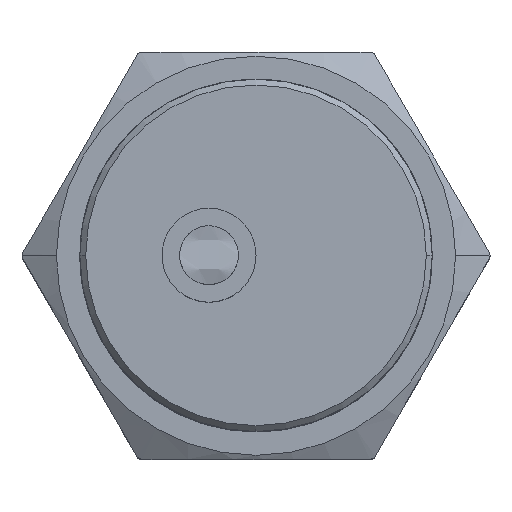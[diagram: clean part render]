
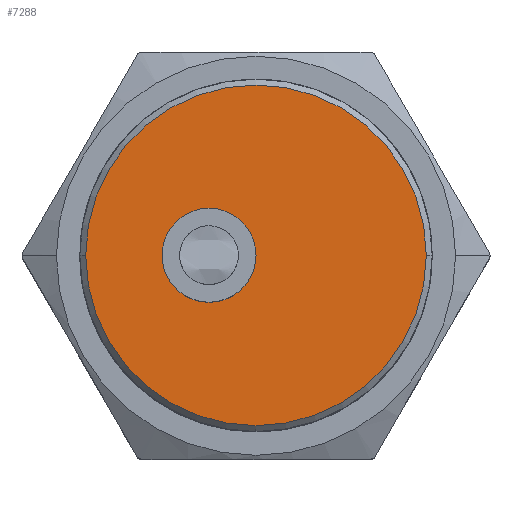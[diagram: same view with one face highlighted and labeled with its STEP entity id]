
A CAD part, top view. The second image highlights one B-rep face of the part: STEP entity #7288.
In plain terms, the highlighted planar face has unit normal (0, 0, 1).
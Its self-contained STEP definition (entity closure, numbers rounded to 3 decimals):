
#2360=CARTESIAN_POINT('',(-4.,0.,55.));
#2361=DIRECTION('',(0.,0.,1.));
#2362=DIRECTION('',(1.,0.,0.));
#2363=AXIS2_PLACEMENT_3D('',#2360,#2361,#2362);
#2368=CARTESIAN_POINT('',(-4.,0.,55.));
#2369=DIRECTION('',(0.,0.,1.));
#2370=DIRECTION('',(-1.,0.,0.));
#2371=AXIS2_PLACEMENT_3D('',#2368,#2369,#2370);
#2376=CARTESIAN_POINT('',(0.,0.,55.));
#2377=DIRECTION('',(0.,0.,1.));
#2378=DIRECTION('',(1.,0.,0.));
#2379=AXIS2_PLACEMENT_3D('',#2376,#2377,#2378);
#2384=CARTESIAN_POINT('',(0.,0.,55.));
#2385=DIRECTION('',(0.,0.,1.));
#2386=DIRECTION('',(-1.,0.,0.));
#2387=AXIS2_PLACEMENT_3D('',#2384,#2385,#2386);
#6189=CARTESIAN_POINT('',(0.,0.,55.));
#6190=CARTESIAN_POINT('',(-8.,0.,55.));
#6191=VERTEX_POINT('',#6189);
#6192=VERTEX_POINT('',#6190);
#6197=CARTESIAN_POINT('',(-14.5,0.,
55.));
#6198=VERTEX_POINT('',#6197);
#6199=CARTESIAN_POINT('',(14.5,0.,55.));
#6200=VERTEX_POINT('',#6199);
#7273=CARTESIAN_POINT('',(0.,0.,55.));
#7274=DIRECTION('',(0.,0.,1.));
#7275=DIRECTION('',(1.,0.,0.));
#7276=AXIS2_PLACEMENT_3D('',#7273,#7274,#7275);
#7277=PLANE('',#7276);
#7278=ORIENTED_EDGE('',*,*,#7251,.F.);
#7279=ORIENTED_EDGE('',*,*,#7265,.F.);
#7280=EDGE_LOOP('',(#7278,#7279));
#7281=FACE_OUTER_BOUND('',#7280,.F.);
#7283=ORIENTED_EDGE('',*,*,#7282,.T.);
#7285=ORIENTED_EDGE('',*,*,#7284,.T.);
#7286=EDGE_LOOP('',(#7283,#7285));
#7287=FACE_BOUND('',#7286,.F.);
#2364=CIRCLE('',#2363,4.);
#2372=CIRCLE('',#2371,4.);
#2380=CIRCLE('',#2379,14.5);
#2388=CIRCLE('',#2387,14.5);
#7251=EDGE_CURVE('',#6200,#6198,#2380,.T.);
#7265=EDGE_CURVE('',#6198,#6200,#2388,.T.);
#7282=EDGE_CURVE('',#6191,#6192,#2364,.T.);
#7284=EDGE_CURVE('',#6192,#6191,#2372,.T.);
#7288=ADVANCED_FACE('',(#7281,#7287),#7277,.T.);
